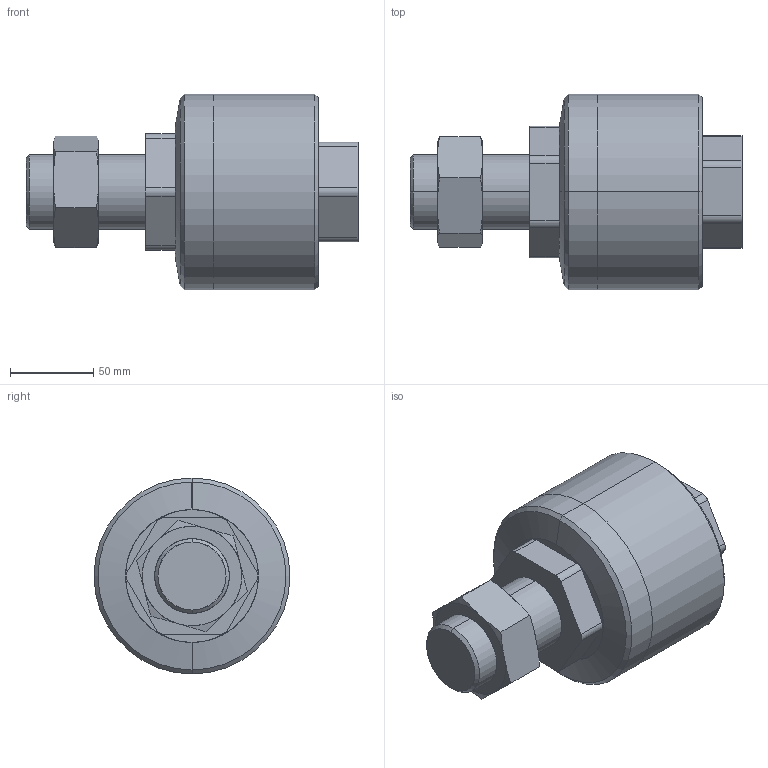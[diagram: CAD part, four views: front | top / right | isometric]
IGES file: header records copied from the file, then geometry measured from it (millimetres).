
Start section: SolidWorks IGES file using analytic representation for surfaces
Global section: file name: D:\MI\新增資料夾\FC\FCM45-1.5.IGS; native system: SolidWorks 2013; preprocessor: SolidWorks 2013; author: Sam Lin; date: 160323.114327; units: millimetre
Bounding box: 200 x 118 x 118 mm (x, y, z)
Surface area: 88436.8 mm2 (no closed solid volume)
Topology: 0 solids, 0 shells, 68 faces, 1160 edges, 1160 vertices
Faces by surface type: bspline 38, revolution 30
